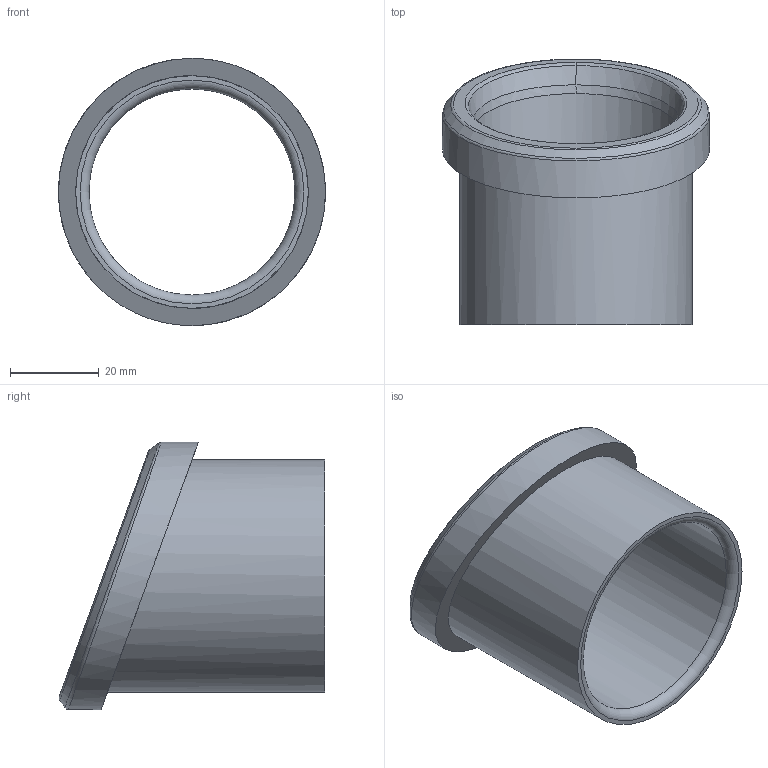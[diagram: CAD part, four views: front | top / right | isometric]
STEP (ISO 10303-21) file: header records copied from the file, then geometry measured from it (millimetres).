
FILE_DESCRIPTION (( 'STEP AP214' ), '1' );
FILE_NAME ('MONO_038-p201_02.STEP', '2026-03-24T00:24:28', ( '' ), ( '' ), 'SwSTEP 2.0', 'SolidWorks 2024', '' );
FILE_SCHEMA (( 'AUTOMOTIVE_DESIGN' ));
Length unit declared in the file: millimetre
Products named in the file (1): MONO_038-p201_02
Bounding box: 60.3 x 60.01 x 60.3 mm (x, y, z)
Volume: 29287.2 mm3; surface area: 17671.7 mm2
Topology: 1 solids, 1 shells, 16 faces, 33 edges, 20 vertices
Faces by surface type: bspline 9, plane 3, cylinder 3, torus 1
Full cylindrical faces by diameter (mm): 46.5 x1, 52.5 x1, 60.3 x1
Entity records: 2695 total; most frequent: CARTESIAN_POINT 2450, ORIENTED_EDGE 46, EDGE_LOOP 26, DIRECTION 24, EDGE_CURVE 23, FACE_OUTER_BOUND 23, VERTEX_POINT 17, ADVANCED_FACE 16
